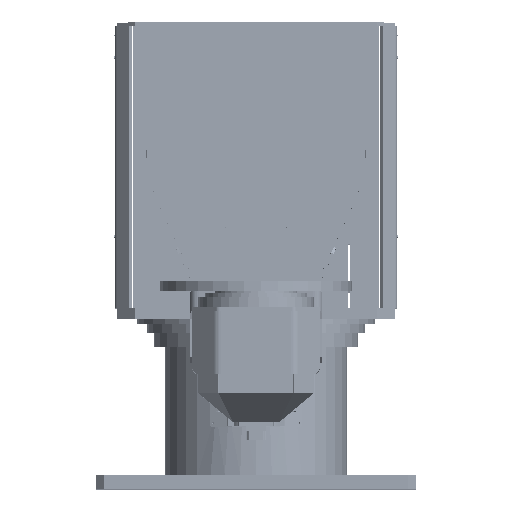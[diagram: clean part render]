
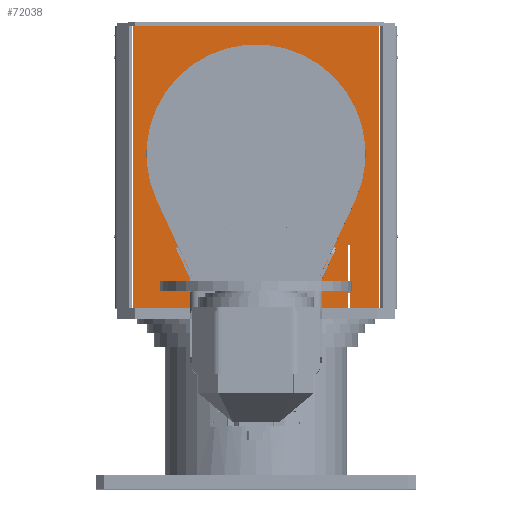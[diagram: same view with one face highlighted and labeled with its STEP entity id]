
A CAD part, top view. The second image highlights one B-rep face of the part: STEP entity #72038.
In plain terms, the highlighted planar face has unit normal (0, 0, 1) as drawn and (-1, 0, 0) by its records, which use the part's own axes.
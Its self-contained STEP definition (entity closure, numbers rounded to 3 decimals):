
#51072 = CARTESIAN_POINT ( 'NONE',  ( -390., 705., -27. ) ) ;
#65381 = DIRECTION ( 'NONE',  ( 0., 0., 1. ) ) ;
#65383 = VECTOR ( 'NONE', #65381, 1000. ) ;
#65385 = CARTESIAN_POINT ( 'NONE',  ( -390., 885., -385. ) ) ;
#65386 = LINE ( 'NONE', #65385, #65383 ) ;
#65390 = DIRECTION ( 'NONE',  ( 0., 0., 1. ) ) ;
#65392 = DIRECTION ( 'NONE',  ( -1., 0., 0. ) ) ;
#65394 = CARTESIAN_POINT ( 'NONE',  ( -390., 402., 0. ) ) ;
#65395 = AXIS2_PLACEMENT_3D ( 'NONE', #65394, #65392, #65390 ) ;
#65396 = CIRCLE ( 'NONE', #65395, 280. ) ;
#65402 = DIRECTION ( 'NONE',  ( 0., 1., 0. ) ) ;
#65403 = VECTOR ( 'NONE', #65402, 1000. ) ;
#65405 = CARTESIAN_POINT ( 'NONE',  ( -390., 885., -35. ) ) ;
#65406 = LINE ( 'NONE', #65405, #65403 ) ;
#65412 = CARTESIAN_POINT ( 'NONE',  ( -390., 705., -35. ) ) ;
#65414 = DIRECTION ( 'NONE',  ( 0., 0., -1. ) ) ;
#65416 = VECTOR ( 'NONE', #65414, 1000. ) ;
#65417 = CARTESIAN_POINT ( 'NONE',  ( -390., 705., -35. ) ) ;
#65419 = LINE ( 'NONE', #65417, #65416 ) ;
#65422 = DIRECTION ( 'NONE',  ( 0., 0., 1. ) ) ;
#65423 = VECTOR ( 'NONE', #65422, 1000. ) ;
#65425 = CARTESIAN_POINT ( 'NONE',  ( -390., 885., -385. ) ) ;
#65428 = LINE ( 'NONE', #65425, #65423 ) ;
#65432 = DIRECTION ( 'NONE',  ( 0., -1., 0. ) ) ;
#65433 = VECTOR ( 'NONE', #65432, 1000. ) ;
#65435 = CARTESIAN_POINT ( 'NONE',  ( -390., 885., 385. ) ) ;
#65436 = LINE ( 'NONE', #65435, #65433 ) ;
#65648 = CARTESIAN_POINT ( 'NONE',  ( -390., 885., 385. ) ) ;
#65650 = CARTESIAN_POINT ( 'NONE',  ( -390., 0., 385. ) ) ;
#65653 = DIRECTION ( 'NONE',  ( 0., 0., 1. ) ) ;
#65654 = VECTOR ( 'NONE', #65653, 1000. ) ;
#65656 = CARTESIAN_POINT ( 'NONE',  ( -390., 0., -385. ) ) ;
#65657 = LINE ( 'NONE', #65656, #65654 ) ;
#65661 = CARTESIAN_POINT ( 'NONE',  ( -390., 0., -385. ) ) ;
#65663 = DIRECTION ( 'NONE',  ( 0., -1., 0. ) ) ;
#65665 = VECTOR ( 'NONE', #65663, 1000. ) ;
#65667 = CARTESIAN_POINT ( 'NONE',  ( -390., 885., -385. ) ) ;
#65669 = LINE ( 'NONE', #65667, #65665 ) ;
#67118 = DIRECTION ( 'NONE',  ( 0., -1., 0. ) ) ;
#67120 = VECTOR ( 'NONE', #67118, 1000. ) ;
#67122 = CARTESIAN_POINT ( 'NONE',  ( -390., 885., -27. ) ) ;
#67123 = LINE ( 'NONE', #67122, #67120 ) ;
#67879 = CARTESIAN_POINT ( 'NONE',  ( -390., 885., -35. ) ) ;
#67880 = DIRECTION ( 'NONE',  ( 0., 0., -1. ) ) ;
#67881 = DIRECTION ( 'NONE',  ( 1., 0., 0. ) ) ;
#67882 = CARTESIAN_POINT ( 'NONE',  ( -390., 885., -385. ) ) ;
#67884 = AXIS2_PLACEMENT_3D ( 'NONE', #67882, #67881, #67880 ) ;
#67887 = PLANE ( 'NONE',  #67884 ) ;
#68025 = CARTESIAN_POINT ( 'NONE',  ( -390., 885., -27. ) ) ;
#68105 = FACE_BOUND ( 'NONE', #72082, .T. ) ;
#68106 = FACE_OUTER_BOUND ( 'NONE', #72039, .T. ) ;
#68242 = CARTESIAN_POINT ( 'NONE',  ( -390., 402., 280. ) ) ;
#68245 = DIRECTION ( 'NONE',  ( 0., 0., 1. ) ) ;
#68248 = DIRECTION ( 'NONE',  ( -1., 0., 0. ) ) ;
#68249 = AXIS2_PLACEMENT_3D ( 'NONE', #68258, #68248, #68245 ) ;
#68251 = CIRCLE ( 'NONE', #68249, 280. ) ;
#68258 = CARTESIAN_POINT ( 'NONE',  ( -390., 402., 0. ) ) ;
#68269 = CARTESIAN_POINT ( 'NONE',  ( -390., 402., -280. ) ) ;
#68818 = CARTESIAN_POINT ( 'NONE',  ( -390., 885., -385. ) ) ;
#68820 = DIRECTION ( 'NONE',  ( 0., 0., 1. ) ) ;
#68822 = VECTOR ( 'NONE', #68820, 1000. ) ;
#68825 = CARTESIAN_POINT ( 'NONE',  ( -390., 885., -385. ) ) ;
#68874 = DIRECTION ( 'NONE',  ( 0., 0., -1. ) ) ;
#68877 = VECTOR ( 'NONE', #68874, 1000. ) ;
#68878 = CARTESIAN_POINT ( 'NONE',  ( -390., 685., -287. ) ) ;
#68881 = LINE ( 'NONE', #68878, #68877 ) ;
#68890 = CARTESIAN_POINT ( 'NONE',  ( -390., 685., -295. ) ) ;
#68932 = LINE ( 'NONE', #68825, #68822 ) ;
#68993 = DIRECTION ( 'NONE',  ( 0., 1., 0. ) ) ;
#68994 = VECTOR ( 'NONE', #68993, 1000. ) ;
#68995 = CARTESIAN_POINT ( 'NONE',  ( -390., 885., -295. ) ) ;
#68996 = LINE ( 'NONE', #68995, #68994 ) ;
#69000 = CARTESIAN_POINT ( 'NONE',  ( -390., 885., -295. ) ) ;
#71707 = VERTEX_POINT ( 'NONE', #51072 ) ;
#71972 = VERTEX_POINT ( 'NONE', #68025 ) ;
#72009 = VERTEX_POINT ( 'NONE', #68269 ) ;
#72017 = EDGE_CURVE ( 'NONE', #72009, #72020, #68251, .T. ) ;
#72020 = VERTEX_POINT ( 'NONE', #68242 ) ;
#72038 = ADVANCED_FACE ( 'NONE', ( #68106, #68105 ), #67887, .F. ) ;
#72039 = EDGE_LOOP ( 'NONE', ( #72085, #72088, #72090, #72091, #72092, #72093, #72097, #72068, #72072, #72074, #72076, #72080 ) ) ;
#72041 = VERTEX_POINT ( 'NONE', #67879 ) ;
#72042 = ORIENTED_EDGE ( 'NONE', *, *, #72017, .F. ) ;
#72068 = ORIENTED_EDGE ( 'NONE', *, *, #72070, .F. ) ;
#72070 = EDGE_CURVE ( 'NONE', #72101, #72100, #65436, .T. ) ;
#72072 = ORIENTED_EDGE ( 'NONE', *, *, #72073, .F. ) ;
#72073 = EDGE_CURVE ( 'NONE', #71972, #72101, #65428, .T. ) ;
#72074 = ORIENTED_EDGE ( 'NONE', *, *, #72254, .T. ) ;
#72076 = ORIENTED_EDGE ( 'NONE', *, *, #72077, .T. ) ;
#72077 = EDGE_CURVE ( 'NONE', #71707, #72078, #65419, .T. ) ;
#72078 = VERTEX_POINT ( 'NONE', #65412 ) ;
#72080 = ORIENTED_EDGE ( 'NONE', *, *, #72081, .T. ) ;
#72081 = EDGE_CURVE ( 'NONE', #72078, #72041, #65406, .T. ) ;
#72082 = EDGE_LOOP ( 'NONE', ( #72083, #72042 ) ) ;
#72083 = ORIENTED_EDGE ( 'NONE', *, *, #72084, .F. ) ;
#72084 = EDGE_CURVE ( 'NONE', #72020, #72009, #65396, .T. ) ;
#72085 = ORIENTED_EDGE ( 'NONE', *, *, #72087, .F. ) ;
#72087 = EDGE_CURVE ( 'NONE', #72794, #72041, #65386, .T. ) ;
#72088 = ORIENTED_EDGE ( 'NONE', *, *, #72792, .T. ) ;
#72090 = ORIENTED_EDGE ( 'NONE', *, *, #72384, .T. ) ;
#72091 = ORIENTED_EDGE ( 'NONE', *, *, #72336, .T. ) ;
#72092 = ORIENTED_EDGE ( 'NONE', *, *, #72345, .F. ) ;
#72093 = ORIENTED_EDGE ( 'NONE', *, *, #72095, .T. ) ;
#72095 = EDGE_CURVE ( 'NONE', #72347, #72096, #65669, .T. ) ;
#72096 = VERTEX_POINT ( 'NONE', #65661 ) ;
#72097 = ORIENTED_EDGE ( 'NONE', *, *, #72098, .T. ) ;
#72098 = EDGE_CURVE ( 'NONE', #72096, #72100, #65657, .T. ) ;
#72100 = VERTEX_POINT ( 'NONE', #65650 ) ;
#72101 = VERTEX_POINT ( 'NONE', #65648 ) ;
#72254 = EDGE_CURVE ( 'NONE', #71972, #71707, #67123, .T. ) ;
#72332 = VERTEX_POINT ( 'NONE', #69000 ) ;
#72336 = EDGE_CURVE ( 'NONE', #72381, #72332, #68996, .T. ) ;
#72345 = EDGE_CURVE ( 'NONE', #72347, #72332, #68932, .T. ) ;
#72347 = VERTEX_POINT ( 'NONE', #68818 ) ;
#72381 = VERTEX_POINT ( 'NONE', #68890 ) ;
#72384 = EDGE_CURVE ( 'NONE', #72788, #72381, #68881, .T. ) ;
#72788 = VERTEX_POINT ( 'NONE', #73717 ) ;
#72792 = EDGE_CURVE ( 'NONE', #72794, #72788, #73712, .T. ) ;
#72794 = VERTEX_POINT ( 'NONE', #73705 ) ;
#73705 = CARTESIAN_POINT ( 'NONE',  ( -390., 885., -287. ) ) ;
#73707 = DIRECTION ( 'NONE',  ( 0., -1., 0. ) ) ;
#73709 = VECTOR ( 'NONE', #73707, 1000. ) ;
#73711 = CARTESIAN_POINT ( 'NONE',  ( -390., 885., -287. ) ) ;
#73712 = LINE ( 'NONE', #73711, #73709 ) ;
#73717 = CARTESIAN_POINT ( 'NONE',  ( -390., 685., -287. ) ) ;
